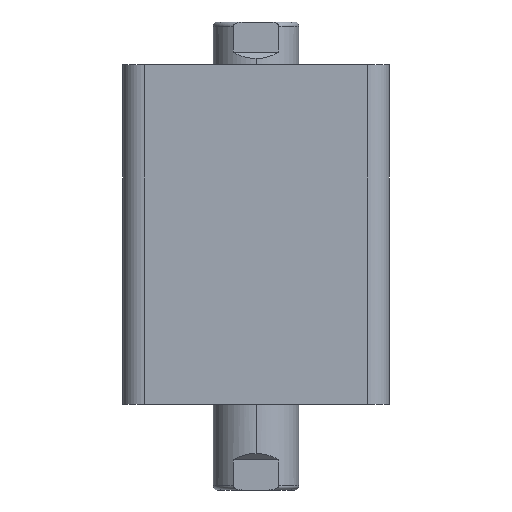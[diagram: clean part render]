
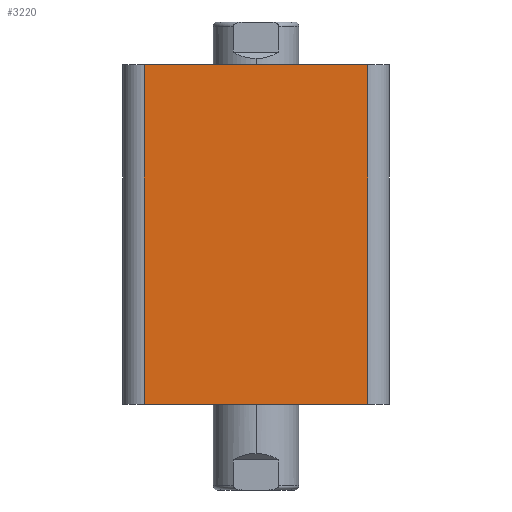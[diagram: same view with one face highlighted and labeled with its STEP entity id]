
A CAD part, left-side view. The second image highlights one B-rep face of the part: STEP entity #3220.
In plain terms, the highlighted planar face has unit normal (-1, 0, 0).
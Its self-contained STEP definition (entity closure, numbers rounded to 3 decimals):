
#41 = LINE ( 'NONE', #537, #56 ) ;
#52 = LINE ( 'NONE', #527, #54 ) ;
#54 = VECTOR ( 'NONE', #525, 1000. ) ;
#55 = LINE ( 'NONE', #543, #58 ) ;
#56 = VECTOR ( 'NONE', #542, 1000. ) ;
#57 = LINE ( 'NONE', #545, #60 ) ;
#58 = VECTOR ( 'NONE', #544, 1000. ) ;
#60 = VECTOR ( 'NONE', #546, 1000. ) ;
#147 = FACE_OUTER_BOUND ( 'NONE', #1274, .T. ) ;
#525 = DIRECTION ( 'NONE',  ( 0., 0., -1. ) ) ;
#527 = CARTESIAN_POINT ( 'NONE',  ( -31., 26., 79. ) ) ;
#537 = CARTESIAN_POINT ( 'NONE',  ( -31., 31., 79. ) ) ;
#542 = DIRECTION ( 'NONE',  ( 0., -1., 0. ) ) ;
#543 = CARTESIAN_POINT ( 'NONE',  ( -31., -26., 79. ) ) ;
#544 = DIRECTION ( 'NONE',  ( 0., 0., 1. ) ) ;
#545 = CARTESIAN_POINT ( 'NONE',  ( -31., 31., 0. ) ) ;
#546 = DIRECTION ( 'NONE',  ( 0., -1., 0. ) ) ;
#1274 = EDGE_LOOP ( 'NONE', ( #2994, #3116, #3121, #2955 ) ) ;
#1314 = CARTESIAN_POINT ( 'NONE',  ( -31., 31., 79. ) ) ;
#1321 = PLANE ( 'NONE',  #1450 ) ;
#1323 = DIRECTION ( 'NONE',  ( 1., 0., 0. ) ) ;
#1324 = DIRECTION ( 'NONE',  ( 0., 1., 0. ) ) ;
#1450 = AXIS2_PLACEMENT_3D ( 'NONE', #1314, #1323, #1324 ) ;
#1937 = CARTESIAN_POINT ( 'NONE',  ( -31., -26., 79. ) ) ;
#1970 = CARTESIAN_POINT ( 'NONE',  ( -31., 26., 0. ) ) ;
#1981 = CARTESIAN_POINT ( 'NONE',  ( -31., 26., 79. ) ) ;
#2002 = CARTESIAN_POINT ( 'NONE',  ( -31., -26., 0. ) ) ;
#2475 = VERTEX_POINT ( 'NONE', #1937 ) ;
#2508 = VERTEX_POINT ( 'NONE', #1970 ) ;
#2519 = VERTEX_POINT ( 'NONE', #1981 ) ;
#2540 = VERTEX_POINT ( 'NONE', #2002 ) ;
#2875 = EDGE_CURVE ( 'NONE', #2519, #2508, #52, .T. ) ;
#2876 = EDGE_CURVE ( 'NONE', #2519, #2475, #41, .T. ) ;
#2877 = EDGE_CURVE ( 'NONE', #2540, #2475, #55, .T. ) ;
#2878 = EDGE_CURVE ( 'NONE', #2508, #2540, #57, .T. ) ;
#2955 = ORIENTED_EDGE ( 'NONE', *, *, #2875, .T. ) ;
#2994 = ORIENTED_EDGE ( 'NONE', *, *, #2878, .T. ) ;
#3116 = ORIENTED_EDGE ( 'NONE', *, *, #2877, .T. ) ;
#3121 = ORIENTED_EDGE ( 'NONE', *, *, #2876, .F. ) ;
#3220 = ADVANCED_FACE ( 'NONE', ( #147 ), #1321, .F. ) ;
